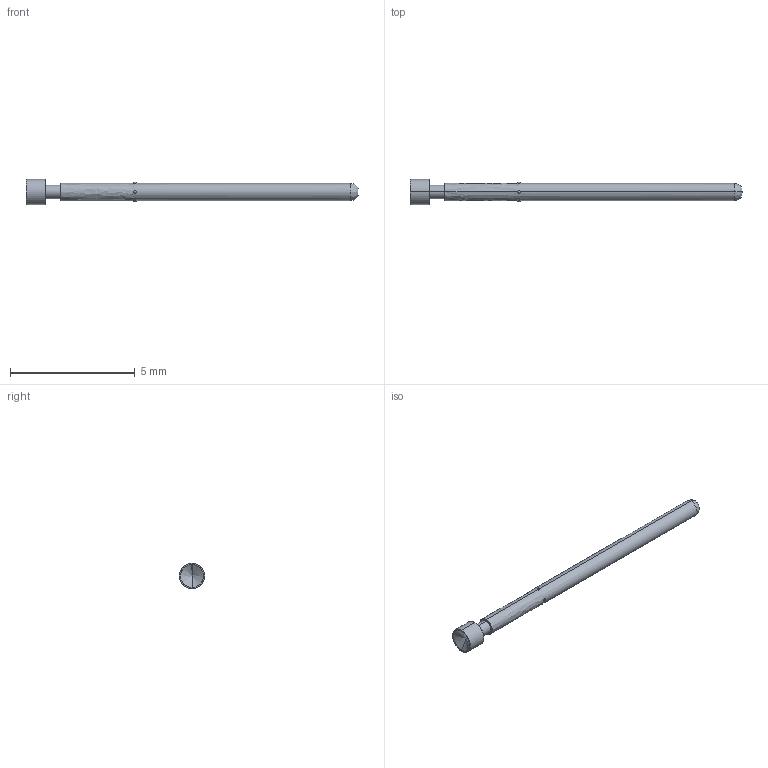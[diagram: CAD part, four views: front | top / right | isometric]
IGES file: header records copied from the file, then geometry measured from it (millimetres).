
Start section: SolidWorks IGES file using analytic representation for surfaces
Global section: file name: O:\PYLON\IGES FILES\P2662B\P2662B-2V1S REC'D.IGS; native system: SolidWorks 2015; preprocessor: SolidWorks 2015; author: kgolden; date: 171019.092032; units: inch
Bounding box: 13.3 x 1.02 x 1.02 mm (x, y, z)
Surface area: 33.4 mm2 (no closed solid volume)
Topology: 0 solids, 0 shells, 24 faces, 256 edges, 238 vertices
Faces by surface type: revolution 18, bspline 6
